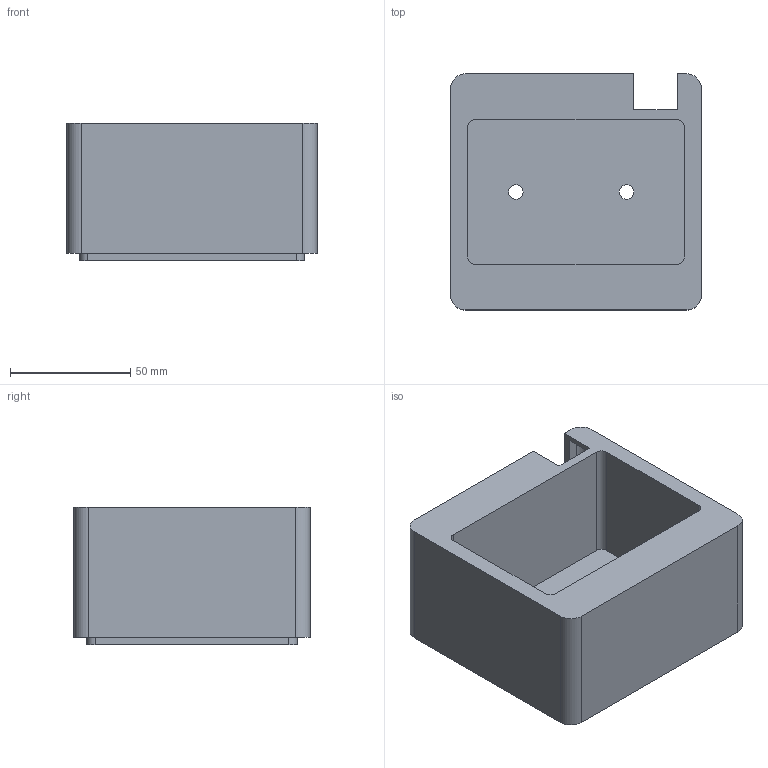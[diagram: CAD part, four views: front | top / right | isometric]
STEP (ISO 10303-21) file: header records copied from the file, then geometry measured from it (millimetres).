
FILE_DESCRIPTION(('Open CASCADE Model'),'2;1');
FILE_NAME('Open CASCADE Shape Model','2026-09-13T14:17:58',('Author'),( 'Open CASCADE'),'Open CASCADE STEP processor 7.9','Open CASCADE 7.9' ,'Unknown');
FILE_SCHEMA(('AUTOMOTIVE_DESIGN { 1 0 10303 214 1 1 1 1 }'));
Length unit declared in the file: millimetre
Products named in the file (1): Open CASCADE STEP translator 7.9 5
Bounding box: 104 x 98 x 57 mm (x, y, z)
Volume: 165886.2 mm3; surface area: 94369 mm2
Topology: 1 solids, 1 shells, 64 faces, 183 edges, 122 vertices
Faces by surface type: plane 38, cylinder 26
Full cylindrical faces by diameter (mm): 6 x2
Entity records: 4530 total; most frequent: CARTESIAN_POINT 796, DIRECTION 721, LINE 445, VECTOR 445, ORIENTED_EDGE 366, PCURVE 366, DEFINITIONAL_REPRESENTATION 366, EDGE_CURVE 183
